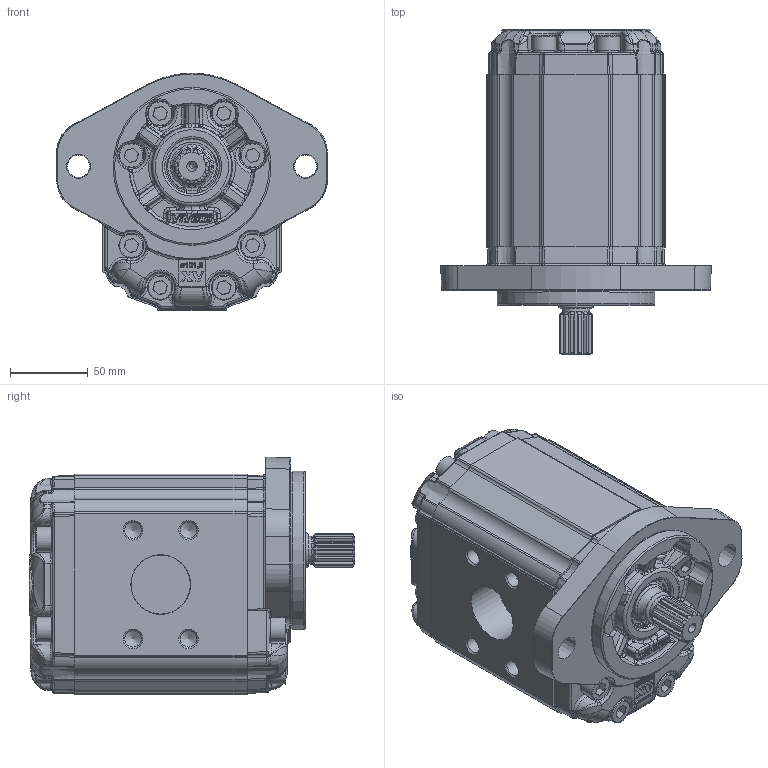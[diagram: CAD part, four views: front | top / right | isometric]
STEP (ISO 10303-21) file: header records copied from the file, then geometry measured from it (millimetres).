
FILE_DESCRIPTION( ( 'Unknown' ), '1' );
FILE_NAME( 'P:/montaggio_easy/output/STP/X3R8631IPPE.stp', 'Unknown', ( 'Unknown' ), ( 'Unknown' ), 'PSStep 14.0', 'Unknown', ' ' );
FILE_SCHEMA( ( 'AUTOMOTIVE_DESIGN { 1 0 10303 214 1 1 1 1 }' ) );
Length unit declared in the file: millimetre
Products named in the file (5): Assem1; X3R31; 3I; X3PPH111; XR331-E
Bounding box: 174 x 209.2 x 153 mm (x, y, z)
Volume: 4794862.4 mm3; surface area: 443979.5 mm2
Topology: 8 solids, 42 shells, 4922 faces, 12680 edges, 7970 vertices
Faces by surface type: bspline 1910, plane 1436, cylinder 1018, cone 212, torus 184, extrusion 78, revolution 52, sphere 32
Full cylindrical faces by diameter (mm): 2 x4, 10 x32, 10.584 x16, 15.25 x2, 15.8 x32, 16 x32, 18 x4, 24.98 x2, 25 x4, 25.968 x2, 28.16 x2, 31.293 x2, 32.742 x2, 34.956 x2, 35 x2, 35.2 x2, 37 x2, 38 x4, 101.6 x2
Entity records: 143951 total; most frequent: CARTESIAN_POINT 76870, ORIENTED_EDGE 12166, EDGE_CURVE 6083, DIRECTION 5817, VERTEX_POINT 3917, B_SPLINE_CURVE_WITH_KNOTS 3458, EDGE_LOOP 2718, FACE_OUTER_BOUND 2564
